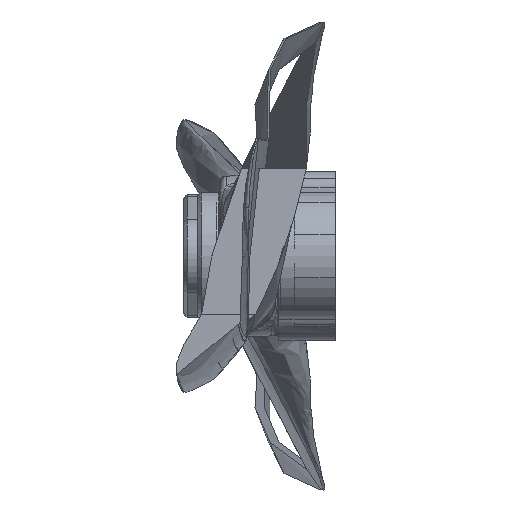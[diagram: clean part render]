
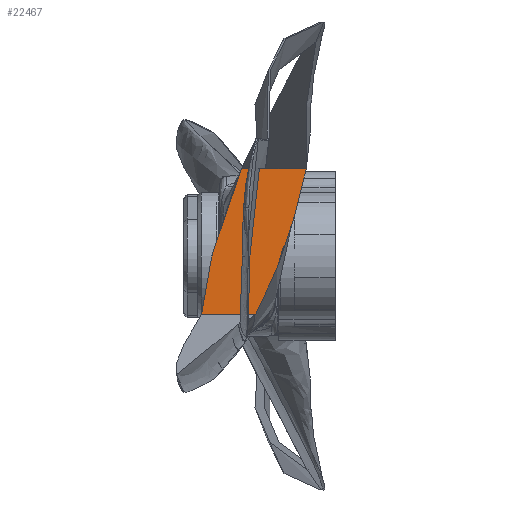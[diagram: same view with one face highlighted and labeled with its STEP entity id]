
A CAD part, left-side view. The second image highlights one B-rep face of the part: STEP entity #22467.
In plain terms, the highlighted planar face has unit normal (-1, 0, 0) as drawn and (1, 0, 0) by its records, which use the part's own axes.
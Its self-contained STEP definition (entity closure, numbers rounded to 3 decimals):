
#545 = B_SPLINE_CURVE_WITH_KNOTS ( 'NONE', 3,
 ( #9342, #13047, #5503, #14911, #16759, #3648, #24331, #16891, #7357, #11198, #9468, #2037, #22707, #7488 ),
 .UNSPECIFIED., .F., .F.,
 ( 4, 2, 2, 2, 2, 2, 4 ),
 ( 0., 0.003, 0.005, 0.011, 0.016, 0.019, 0.022 ),
 .UNSPECIFIED. ) ;
#1025 = CARTESIAN_POINT ( 'NONE',  ( 60.903, -8.268, -0.95 ) ) ;
#1678 = ORIENTED_EDGE ( 'NONE', *, *, #12986, .F. ) ;
#2037 = CARTESIAN_POINT ( 'NONE',  ( 60.903, 10.551, -7.763 ) ) ;
#3524 = EDGE_CURVE ( 'NONE', #6861, #22239, #7963, .T. ) ;
#3648 = CARTESIAN_POINT ( 'NONE',  ( 60.903, -1.666, -4.051 ) ) ;
#3691 = CARTESIAN_POINT ( 'NONE',  ( 60.903, 11.838, 1.238 ) ) ;
#5069 = CARTESIAN_POINT ( 'NONE',  ( 60.903, 12.089, 1.133 ) ) ;
#5503 = CARTESIAN_POINT ( 'NONE',  ( 60.903, -6.667, -1.833 ) ) ;
#5597 = B_SPLINE_CURVE_WITH_KNOTS ( 'NONE', 3,
 ( #17649, #7998, #15550, #17283 ),
 .UNSPECIFIED., .F., .F.,
 ( 4, 4 ),
 ( 0., 0.008 ),
 .UNSPECIFIED. ) ;
#6861 = VERTEX_POINT ( 'NONE', #10299 ) ;
#6970 = EDGE_CURVE ( 'NONE', #22128, #22239, #10173, .T. ) ;
#7155 = CARTESIAN_POINT ( 'NONE',  ( 60.903, 9.825, 2.066 ) ) ;
#7357 = CARTESIAN_POINT ( 'NONE',  ( 60.903, 5.257, -6.368 ) ) ;
#7456 = CARTESIAN_POINT ( 'NONE',  ( 60.903, 12.338, -10.888 ) ) ;
#7488 = CARTESIAN_POINT ( 'NONE',  ( 60.903, 12.338, -8.133 ) ) ;
#7574 = DIRECTION ( 'NONE',  ( 0., 0., 1. ) ) ;
#7963 = B_SPLINE_CURVE_WITH_KNOTS ( 'NONE', 3,
 ( #22025, #9022, #16674, #13083, #10999, #7155, #14954, #22514, #8892, #3691, #5069, #11236 ),
 .UNSPECIFIED., .F., .F.,
 ( 4, 2, 2, 2, 2, 4 ),
 ( 0., 0.007, 0.01, 0.011, 0.012, 0.013 ),
 .UNSPECIFIED. ) ;
#7998 = CARTESIAN_POINT ( 'NONE',  ( 60.903, -5.48, 6.428 ) ) ;
#8821 = CARTESIAN_POINT ( 'NONE',  ( 60.903, 12.338, 1.025 ) ) ;
#8892 = CARTESIAN_POINT ( 'NONE',  ( 60.903, 11.336, 1.449 ) ) ;
#9022 = CARTESIAN_POINT ( 'NONE',  ( 60.903, 2.116, 4.738 ) ) ;
#9124 = CARTESIAN_POINT ( 'NONE',  ( 60.903, -8.268, -10.888 ) ) ;
#9342 = CARTESIAN_POINT ( 'NONE',  ( 60.903, -8.268, -0.95 ) ) ;
#9468 = CARTESIAN_POINT ( 'NONE',  ( 60.903, 8.778, -7.332 ) ) ;
#9672 = DIRECTION ( 'NONE',  ( -1., 0., 0. ) ) ;
#10173 = LINE ( 'NONE', #14130, #17766 ) ;
#10299 = CARTESIAN_POINT ( 'NONE',  ( 60.903, 0., 5.254 ) ) ;
#10999 = CARTESIAN_POINT ( 'NONE',  ( 60.903, 8.305, 2.66 ) ) ;
#11198 = CARTESIAN_POINT ( 'NONE',  ( 60.903, 7.895, -7.1 ) ) ;
#11236 = CARTESIAN_POINT ( 'NONE',  ( 60.903, 12.338, 1.025 ) ) ;
#11535 = PLANE ( 'NONE',  #11708 ) ;
#11570 = EDGE_CURVE ( 'NONE', #14669, #14493, #16785, .T. ) ;
#11586 = ORIENTED_EDGE ( 'NONE', *, *, #11570, .F. ) ;
#11708 = AXIS2_PLACEMENT_3D ( 'NONE', #7456, #9672, #7574 ) ;
#12820 = DIRECTION ( 'NONE',  ( 0., 0., 1. ) ) ;
#12986 = EDGE_CURVE ( 'NONE', #14493, #6861, #5597, .T. ) ;
#13047 = CARTESIAN_POINT ( 'NONE',  ( 60.903, -7.477, -1.409 ) ) ;
#13083 = CARTESIAN_POINT ( 'NONE',  ( 60.903, 7.284, 3.038 ) ) ;
#13494 = EDGE_CURVE ( 'NONE', #14669, #22128, #545, .T. ) ;
#14130 = CARTESIAN_POINT ( 'NONE',  ( 60.903, 12.338, -10.888 ) ) ;
#14493 = VERTEX_POINT ( 'NONE', #22101 ) ;
#14669 = VERTEX_POINT ( 'NONE', #1025 ) ;
#14911 = CARTESIAN_POINT ( 'NONE',  ( 60.903, -5.023, -2.628 ) ) ;
#14954 = CARTESIAN_POINT ( 'NONE',  ( 60.903, 10.33, 1.863 ) ) ;
#15550 = CARTESIAN_POINT ( 'NONE',  ( 60.903, -2.721, 5.918 ) ) ;
#16265 = ORIENTED_EDGE ( 'NONE', *, *, #6970, .T. ) ;
#16304 = ORIENTED_EDGE ( 'NONE', *, *, #3524, .F. ) ;
#16674 = CARTESIAN_POINT ( 'NONE',  ( 60.903, 4.199, 4.109 ) ) ;
#16759 = CARTESIAN_POINT ( 'NONE',  ( 60.903, -4.19, -2.999 ) ) ;
#16785 = LINE ( 'NONE', #9124, #16890 ) ;
#16890 = VECTOR ( 'NONE', #12820, 1000. ) ;
#16891 = CARTESIAN_POINT ( 'NONE',  ( 60.903, 3.511, -5.835 ) ) ;
#17141 = EDGE_LOOP ( 'NONE', ( #23165, #16265, #16304, #1678, #11586 ) ) ;
#17283 = CARTESIAN_POINT ( 'NONE',  ( 60.903, 0., 5.254 ) ) ;
#17614 = CARTESIAN_POINT ( 'NONE',  ( 60.903, 12.338, -8.133 ) ) ;
#17649 = CARTESIAN_POINT ( 'NONE',  ( 60.903, -8.268, 6.7 ) ) ;
#17766 = VECTOR ( 'NONE', #19832, 1000. ) ;
#19832 = DIRECTION ( 'NONE',  ( 0., 0., 1. ) ) ;
#22025 = CARTESIAN_POINT ( 'NONE',  ( 60.903, 0., 5.254 ) ) ;
#22101 = CARTESIAN_POINT ( 'NONE',  ( 60.903, -8.268, 6.7 ) ) ;
#22128 = VERTEX_POINT ( 'NONE', #17614 ) ;
#22239 = VERTEX_POINT ( 'NONE', #8821 ) ;
#22467 = ADVANCED_FACE ( 'NONE', ( #24428 ), #11535, .F. ) ;
#22514 = CARTESIAN_POINT ( 'NONE',  ( 60.903, 11.085, 1.553 ) ) ;
#22707 = CARTESIAN_POINT ( 'NONE',  ( 60.903, 11.441, -7.962 ) ) ;
#23165 = ORIENTED_EDGE ( 'NONE', *, *, #13494, .T. ) ;
#24331 = CARTESIAN_POINT ( 'NONE',  ( 60.903, 0.049, -4.676 ) ) ;
#24428 = FACE_OUTER_BOUND ( 'NONE', #17141, .T. ) ;
